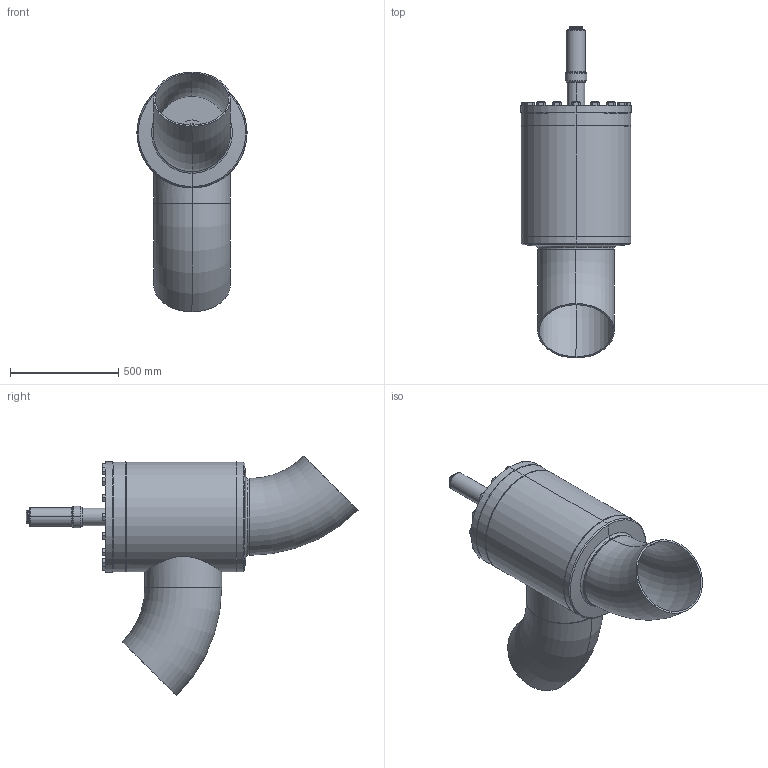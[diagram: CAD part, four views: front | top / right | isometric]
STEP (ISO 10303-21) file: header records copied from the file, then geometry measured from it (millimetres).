
FILE_DESCRIPTION (( 'STEP AP214' ), '1' );
FILE_NAME ('AVR26300C26-DN350_R1_PS25.STEP', '2006-04-28T08:25:32', ( 'Herr Grams' ), ( 'AWP GmbH' ), 'SwSTEP 2.0', 'SolidWorks 2002296', '' );
FILE_SCHEMA (( 'AUTOMOTIVE_DESIGN' ));
Length unit declared in the file: millimetre
Products named in the file (18): AVR26300C26-DN350_R1_PS25; AVR26300B26_Deck+Schr-DN350_Standard; Deckel-kpl26300-DN350_Standard; Scheibe f Deckel26300-DN350_Standard; Buchse1 f Deckel26300-DN350_Standard; bead-deck263-350_Standard; Sechskantschraube-DIN933_M24x 65; Gehäuse-kpl26300-DN350_R1_Standard; Gehäuse26300-DN350_Standard; Boden26300-DN350_Standard; Kopfstück26300-DN350_Standard; Rohrstutzen-A26300-DN350_R1_Standard; bead-DN350-2_Standard; Rohrbogen 45°_Rohrbogen-DN350-45°; bead-DN350-4_Standard; bead-DN350-1_Standard; bead-DN350-3_Standard; Kappe16402_DN200-350_Standard
Assembly tree (35 placements, depth 4):
  AVR26300C26-DN350_R1_PS25
    Kappe16402_DN200-350_Standard
    AVR26300B26_Deck+Schr-DN350_Standard
      Sechskantschraube-DIN933_M24x 65  x16
      Deckel-kpl26300-DN350_Standard
        Scheibe f Deckel26300-DN350_Standard
        bead-deck263-350_Standard
        Buchse1 f Deckel26300-DN350_Standard
    Gehäuse-kpl26300-DN350_R1_Standard
      bead-DN350-2_Standard
      Gehäuse26300-DN350_Standard
      Rohrstutzen-A26300-DN350_R1_Standard
      Rohrbogen 45°_Rohrbogen-DN350-45°  x2
      bead-DN350-1_Standard  x2
      bead-DN350-4_Standard  x2
      bead-DN350-3_Standard
      Boden26300-DN350_Standard
      Kopfstück26300-DN350_Standard
Bounding box: 510 x 1536.61 x 1110.45 mm (x, y, z)
Volume: 45063360.4 mm3; surface area: 5881038.2 mm2
Topology: 32 solids, 32 shells, 627 faces, 1336 edges, 800 vertices
Faces by surface type: cone 240, plane 196, cylinder 135, bspline 36, torus 20
Entity records: 19483 total; most frequent: CARTESIAN_POINT 13305, DIRECTION 1176, ORIENTED_EDGE 1040, EDGE_CURVE 520, AXIS2_PLACEMENT_3D 517, VERTEX_POINT 326, EDGE_LOOP 304, CIRCLE 270
